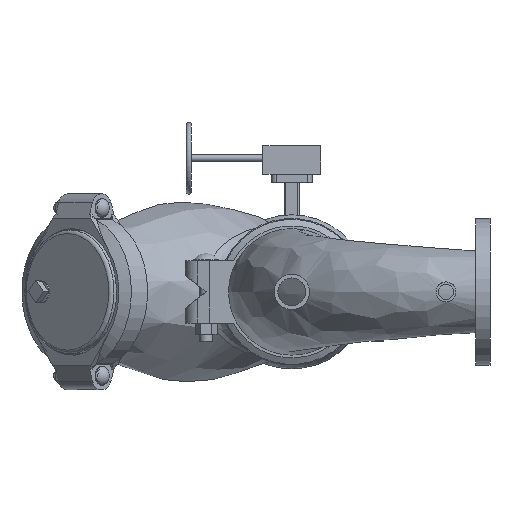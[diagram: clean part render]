
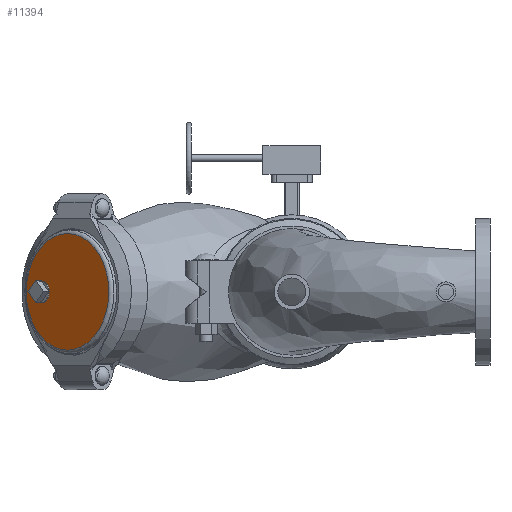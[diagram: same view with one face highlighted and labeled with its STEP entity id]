
A CAD part, front view. The second image highlights one B-rep face of the part: STEP entity #11394.
In plain terms, the highlighted planar face has unit normal (-0.707, -0.707, 0) as drawn and (1, 0, 0) by its records, which use the part's own axes.
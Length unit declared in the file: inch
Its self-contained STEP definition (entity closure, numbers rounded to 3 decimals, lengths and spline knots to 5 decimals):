
#2225=FACE_BOUND('',#3251,.T.);
#2584=FACE_OUTER_BOUND('',#3250,.T.);
#3250=EDGE_LOOP('',(#8366,#8367));
#3251=EDGE_LOOP('',(#8368));
#3917=CIRCLE('',#12559,0.75);
#3925=CIRCLE('',#12570,3.9705);
#3926=CIRCLE('',#12571,3.9705);
#4752=VERTEX_POINT('',#22223);
#4760=VERTEX_POINT('',#22244);
#4761=VERTEX_POINT('',#22245);
#6056=EDGE_CURVE('',#4752,#4752,#3917,.T.);
#6065=EDGE_CURVE('',#4760,#4761,#3925,.T.);
#6066=EDGE_CURVE('',#4761,#4760,#3926,.T.);
#8366=ORIENTED_EDGE('',*,*,#6065,.T.);
#8367=ORIENTED_EDGE('',*,*,#6066,.T.);
#8368=ORIENTED_EDGE('',*,*,#6056,.T.);
#10285=PLANE('',#12573);
#11394=ADVANCED_FACE('',(#2584,#2225),#10285,.T.);
#12559=AXIS2_PLACEMENT_3D('',#22225,#14737,#14738);
#12570=AXIS2_PLACEMENT_3D('',#22246,#14760,#14761);
#12571=AXIS2_PLACEMENT_3D('',#22247,#14762,#14763);
#12573=AXIS2_PLACEMENT_3D('',#22249,#14766,#14767);
#14737=DIRECTION('center_axis',(-1.,0.,0.));
#14738=DIRECTION('ref_axis',(0.,0.,1.));
#14760=DIRECTION('center_axis',(1.,0.,0.));
#14761=DIRECTION('ref_axis',(0.,0.,-1.));
#14762=DIRECTION('center_axis',(1.,0.,0.));
#14763=DIRECTION('ref_axis',(0.,0.,-1.));
#14766=DIRECTION('center_axis',(1.,0.,0.));
#14767=DIRECTION('ref_axis',(0.,0.,-1.));
#22223=CARTESIAN_POINT('',(1.57,2.5,-0.75));
#22225=CARTESIAN_POINT('Origin',(1.57,2.5,0.));
#22244=CARTESIAN_POINT('',(1.57,3.9705,0.));
#22245=CARTESIAN_POINT('',(1.57,0.,3.9705));
#22246=CARTESIAN_POINT('Origin',(1.57,0.,0.));
#22247=CARTESIAN_POINT('Origin',(1.57,0.,0.));
#22249=CARTESIAN_POINT('Origin',(1.57,0.,0.));
